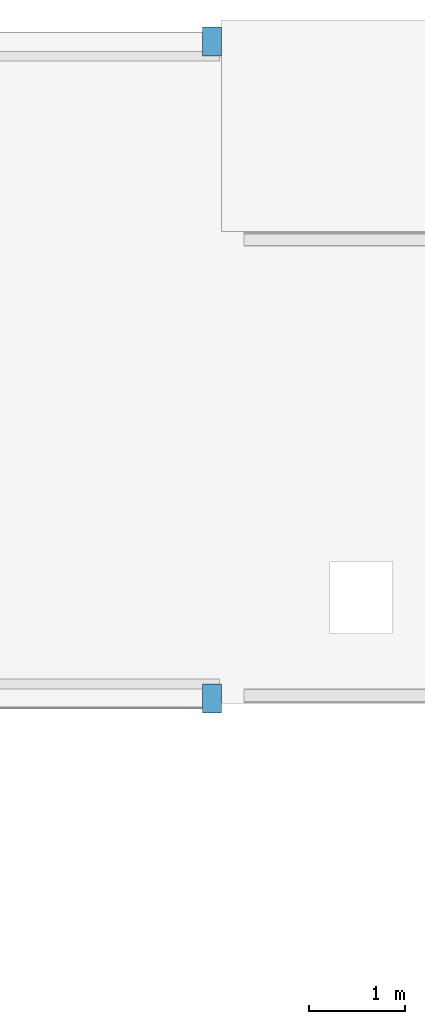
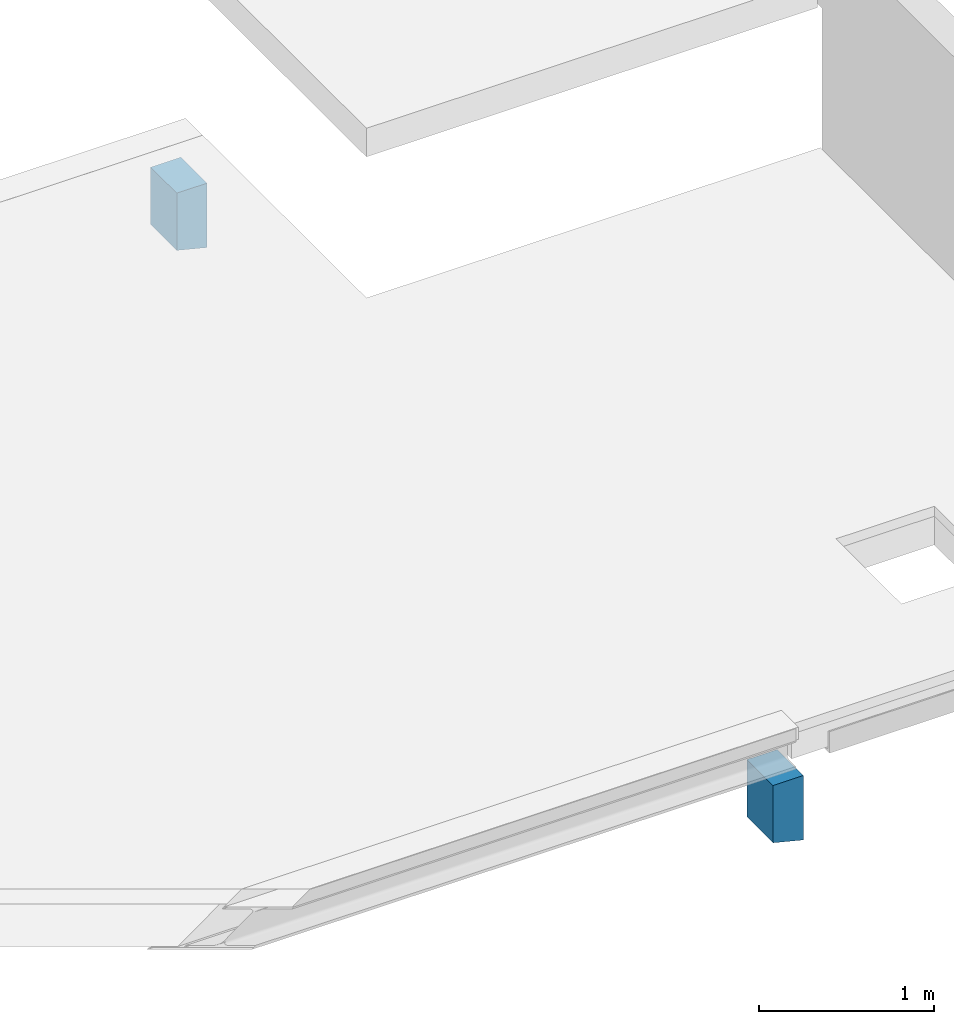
# One storey, part 26 of 27: 2 walls.
"""IFC2X3 building model written with IfcOpenShell, lengths in millimetres."""

from ifc_helpers import new_model, entity, si_unit, converted_unit, derived_unit, direction, frame, origin, place, context, subcontext, project, spatial, faceted_brep, material, type_object, element, save


model = new_model("IFC2X3")

# Units and contexts
model_context = context("Model", 3, precision=0.01, world=origin(), true_north=direction((6.12303176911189e-17, 1.0)))
body_context = subcontext(model_context, "Body", "Model", "MODEL_VIEW")
ifc_project = project(units=[si_unit("LENGTHUNIT", "METRE", prefix="MILLI"), si_unit("AREAUNIT", "SQUARE_METRE"), si_unit("VOLUMEUNIT", "CUBIC_METRE"), converted_unit("PLANEANGLEUNIT", "DEGREE", entity("IfcRatioMeasure", 0.0174532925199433), si_unit("PLANEANGLEUNIT", "RADIAN"), dimensions=[0, 0, 0, 0, 0, 0, 0]), si_unit("MASSUNIT", "GRAM", prefix="KILO"), derived_unit("MASSDENSITYUNIT", [(si_unit("MASSUNIT", "GRAM", prefix="KILO"), 1), (si_unit("LENGTHUNIT", "METRE"), -3)]), si_unit("TIMEUNIT", "SECOND"), si_unit("FREQUENCYUNIT", "HERTZ"), si_unit("THERMODYNAMICTEMPERATUREUNIT", "DEGREE_CELSIUS"), derived_unit("THERMALTRANSMITTANCEUNIT", [(si_unit("MASSUNIT", "GRAM", prefix="KILO"), 1), (si_unit("THERMODYNAMICTEMPERATUREUNIT", "KELVIN"), -1), (si_unit("TIMEUNIT", "SECOND"), -3)]), derived_unit("VOLUMETRICFLOWRATEUNIT", [(si_unit("LENGTHUNIT", "METRE"), 3), (si_unit("TIMEUNIT", "SECOND"), -1)]), si_unit("ELECTRICCURRENTUNIT", "AMPERE"), si_unit("ELECTRICVOLTAGEUNIT", "VOLT"), si_unit("POWERUNIT", "WATT"), si_unit("FORCEUNIT", "NEWTON", prefix="KILO"), si_unit("ILLUMINANCEUNIT", "LUX"), si_unit("LUMINOUSFLUXUNIT", "LUMEN"), si_unit("LUMINOUSINTENSITYUNIT", "CANDELA"), derived_unit("USERDEFINED", [(si_unit("MASSUNIT", "GRAM", prefix="KILO"), -1), (si_unit("LENGTHUNIT", "METRE"), -2), (si_unit("TIMEUNIT", "SECOND"), 3), (si_unit("LUMINOUSFLUXUNIT", "LUMEN"), 1)]), derived_unit("LINEARVELOCITYUNIT", [(si_unit("LENGTHUNIT", "METRE"), 1), (si_unit("TIMEUNIT", "SECOND"), -1)]), si_unit("PRESSUREUNIT", "PASCAL"), derived_unit("USERDEFINED", [(si_unit("LENGTHUNIT", "METRE"), -2), (si_unit("MASSUNIT", "GRAM", prefix="KILO"), 1), (si_unit("TIMEUNIT", "SECOND"), -2)])], contexts=[model_context])

# Site, building, storey
site_placement = place(None, origin())
site = spatial("IfcSite", under=ifc_project, at=site_placement, Name="Default", CompositionType="ELEMENT")
building_placement = place(site_placement, origin())
building = spatial("IfcBuilding", under=site, at=building_placement, Name="niet gebruiken", CompositionType="ELEMENT")
storey_placement = place(building_placement, frame((0.0, 0.0, 18000.0)))
storey = spatial("IfcBuildingStorey", under=building, at=storey_placement, Name="05 vijfde verdieping", CompositionType="ELEMENT", Elevation=18000.0)

# Walls
ifc_material = material(Name="NLRS_f2_beton prefab")
wall_type = type_object("IfcWallType", Name="NLRS_21.21_SF_WPB_oplegnok prefabbeton_gen:450x200 met afschuining 15gr", PredefinedType="NOTDEFINED", material=ifc_material)
for number, where, z_axis, x_axis, name in (
    (1, (159990.0, 43350.0, -1740.0), (0.0, 0.0, 1.0), (0.0, 1.0, 0.0), "NLRS_21.21_SF_WPB_oplegnok prefabbeton_gen:450x200 met afschuining 15gr"),
    (2, (159990.0, 50175.0, -1740.0), (0.0, 0.0, 1.0), (0.0, 1.0, 0.0), "NLRS_21.21_SF_WPB_oplegnok prefabbeton_gen:450x200 met afschuining 15gr"),
):
    element("IfcWall", number, at=place(storey_placement, frame(where, z_axis=z_axis, x_axis=x_axis)), inside=storey, type_object=wall_type, material=ifc_material, Name=name, ObjectType="NLRS_21.21_SF_WPB_oplegnok prefabbeton_gen:450x200 met afschuining 15gr", context=body_context, shape_type="Brep", body=[
        faceted_brep([(0.0, -200.0, 450.0), (0.0, 0.0, 450.0), (0.0, 0.0, 49.8656005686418), (0.0, -200.0, 0.0), (300.0, -200.0, 450.0), (300.0, -200.0, 0.0), (300.0, 0.0, 49.8656005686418), (300.0, 0.0, 450.0)], [[[0, 1, 2, 3]], [[4, 5, 6, 7]], [[3, 5, 4, 0]], [[1, 7, 6, 2]], [[0, 4, 7, 1]], [[2, 6, 5, 3]]]),
    ])

save(model, "model.ifc")
